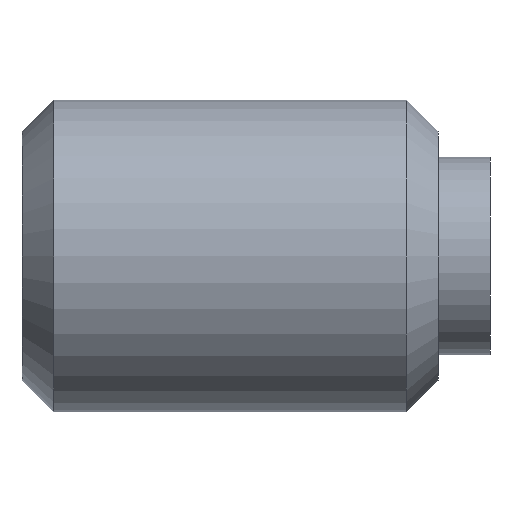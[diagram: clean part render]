
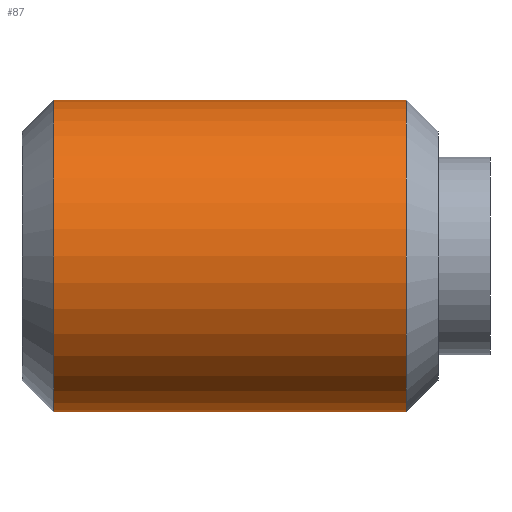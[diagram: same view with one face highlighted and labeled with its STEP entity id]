
A CAD part, left-side view. The second image highlights one B-rep face of the part: STEP entity #87.
In plain terms, the highlighted cylindrical face has radius 1.5 mm (diameter 3 mm), a full revolution.
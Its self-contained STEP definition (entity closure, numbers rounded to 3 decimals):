
#87 = ADVANCED_FACE( '', ( #118, #119 ), #120, .T. );
#118 = FACE_OUTER_BOUND( '', #152, .T. );
#119 = FACE_OUTER_BOUND( '', #153, .T. );
#120 = CYLINDRICAL_SURFACE( '', #154, 1.5 );
#152 = EDGE_LOOP( '', ( #238 ) );
#153 = EDGE_LOOP( '', ( #239 ) );
#154 = AXIS2_PLACEMENT_3D( '', #240, #241, #242 );
#238 = ORIENTED_EDGE( '', *, *, #270, .F. );
#239 = ORIENTED_EDGE( '', *, *, #271, .T. );
#240 = CARTESIAN_POINT( '', ( 0., 0., 0. ) );
#241 = DIRECTION( '', ( 0., 1., 0. ) );
#242 = DIRECTION( '', ( 0., 0., -1. ) );
#270 = EDGE_CURVE( '', #310, #310, #311, .T. );
#271 = EDGE_CURVE( '', #312, #312, #313, .T. );
#310 = VERTEX_POINT( '', #370 );
#311 = CIRCLE( '', #371, 1.5 );
#312 = VERTEX_POINT( '', #372 );
#313 = CIRCLE( '', #373, 1.5 );
#370 = CARTESIAN_POINT( '', ( 0., 0.807, -1.5 ) );
#371 = AXIS2_PLACEMENT_3D( '', #404, #405, #406 );
#372 = CARTESIAN_POINT( '', ( 0., 4.194, -1.5 ) );
#373 = AXIS2_PLACEMENT_3D( '', #407, #408, #409 );
#404 = CARTESIAN_POINT( '', ( 0., 0.807, 0. ) );
#405 = DIRECTION( '', ( 0., -1., 0. ) );
#406 = DIRECTION( '', ( 0., 0., -1. ) );
#407 = CARTESIAN_POINT( '', ( 0., 4.194, 0. ) );
#408 = DIRECTION( '', ( 0., -1., 0. ) );
#409 = DIRECTION( '', ( 0., 0., -1. ) );
